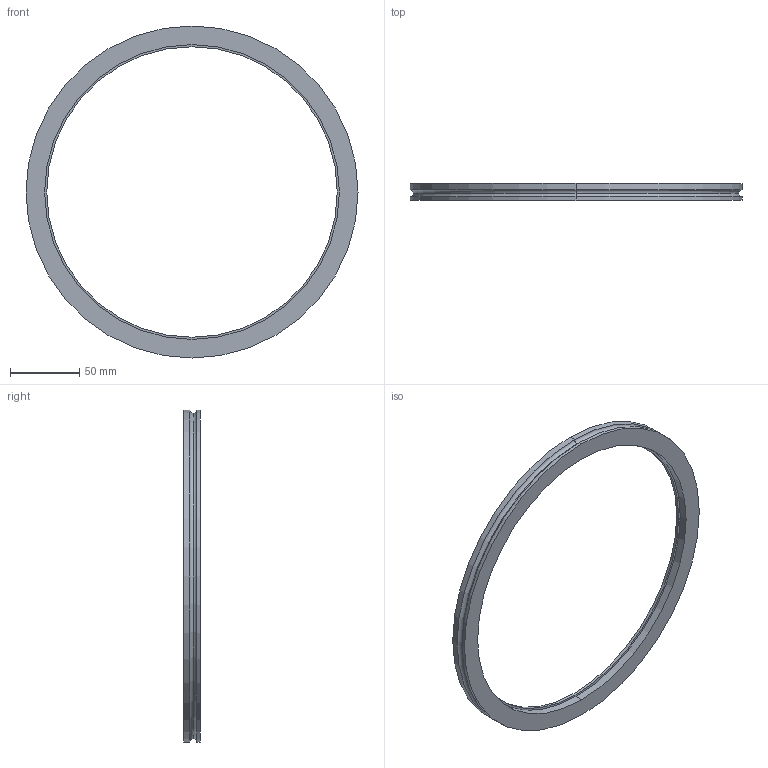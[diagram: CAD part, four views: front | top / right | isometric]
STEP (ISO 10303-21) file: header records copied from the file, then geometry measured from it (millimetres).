
FILE_DESCRIPTION (( 'STEP AP214' ), '1' );
FILE_NAME ('W4KL200.STEP', '2019-03-28T07:50:03', ( '' ), ( '' ), 'SwSTEP 2.0', 'SolidWorks 2018', '' );
FILE_SCHEMA (( 'AUTOMOTIVE_DESIGN' ));
Length unit declared in the file: millimetre
Products named in the file (1): W4KL200
Bounding box: 240 x 12 x 240 mm (x, y, z)
Volume: 88747.6 mm3; surface area: 40528.3 mm2
Topology: 1 solids, 1 shells, 21 faces, 42 edges, 26 vertices
Faces by surface type: cylinder 12, plane 5, torus 4
Entity records: 596 total; most frequent: DIRECTION 116, CARTESIAN_POINT 90, ORIENTED_EDGE 84, AXIS2_PLACEMENT_3D 52, EDGE_CURVE 42, CIRCLE 30, VERTEX_POINT 26, EDGE_LOOP 26
